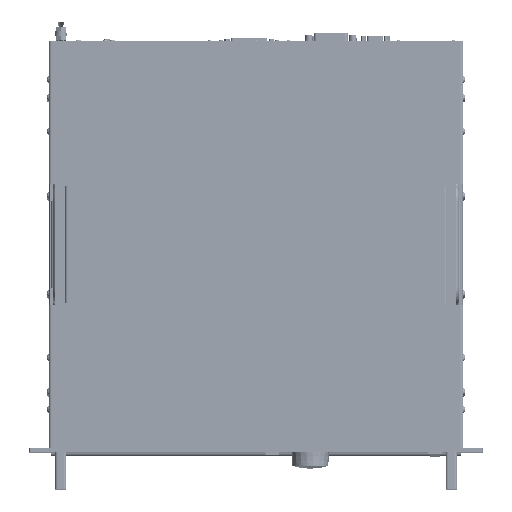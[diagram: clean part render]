
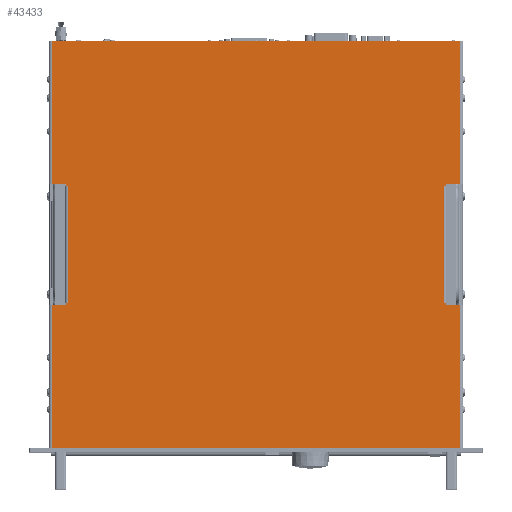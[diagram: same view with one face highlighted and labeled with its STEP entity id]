
A CAD part, top view. The second image highlights one B-rep face of the part: STEP entity #43433.
In plain terms, the highlighted planar face has unit normal (0, 0, 1).
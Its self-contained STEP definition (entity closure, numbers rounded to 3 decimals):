
#43433=ADVANCED_FACE('',(#91662),#91663,.F.);
#91662=FACE_OUTER_BOUND('',#171749,.T.);
#91663=PLANE('',#171750);
#171749=EDGE_LOOP('',(#300291,#300292,#300293,#300294,#300295,#300296,#300297,#300298,#300299,#300300,#300301,#300302,#300303,#300304,#300305,#300306,#300307,#300308,#300309,#300310));
#171750=AXIS2_PLACEMENT_3D('',#300311,#300312,#300313);
#300291=ORIENTED_EDGE('',*,*,#367679,.T.);
#300292=ORIENTED_EDGE('',*,*,#367699,.F.);
#300293=ORIENTED_EDGE('',*,*,#367700,.F.);
#300294=ORIENTED_EDGE('',*,*,#367343,.F.);
#300295=ORIENTED_EDGE('',*,*,#367665,.F.);
#300296=ORIENTED_EDGE('',*,*,#367328,.F.);
#300297=ORIENTED_EDGE('',*,*,#367654,.F.);
#300298=ORIENTED_EDGE('',*,*,#367701,.F.);
#300299=ORIENTED_EDGE('',*,*,#367697,.T.);
#300300=ORIENTED_EDGE('',*,*,#367692,.F.);
#300301=ORIENTED_EDGE('',*,*,#367689,.T.);
#300302=ORIENTED_EDGE('',*,*,#367702,.F.);
#300303=ORIENTED_EDGE('',*,*,#367630,.F.);
#300304=ORIENTED_EDGE('',*,*,#367318,.F.);
#300305=ORIENTED_EDGE('',*,*,#367619,.F.);
#300306=ORIENTED_EDGE('',*,*,#367338,.F.);
#300307=ORIENTED_EDGE('',*,*,#367703,.F.);
#300308=ORIENTED_EDGE('',*,*,#367704,.F.);
#300309=ORIENTED_EDGE('',*,*,#367676,.T.);
#300310=ORIENTED_EDGE('',*,*,#367684,.T.);
#300311=CARTESIAN_POINT('',(241.3,260.625,101.899));
#300312=DIRECTION('',(0.,0.,-1.0));
#300313=DIRECTION('',(1.0,0.,0.));
#367318=EDGE_CURVE('',#442397,#442399,#442400,.T.);
#367328=EDGE_CURVE('',#442415,#442417,#442418,.T.);
#367338=EDGE_CURVE('',#442433,#442435,#442436,.T.);
#367343=EDGE_CURVE('',#442442,#442444,#442445,.T.);
#367619=EDGE_CURVE('',#442435,#442397,#442875,.T.);
#367630=EDGE_CURVE('',#442399,#442890,#442891,.T.);
#367654=EDGE_CURVE('',#442923,#442415,#442925,.T.);
#367665=EDGE_CURVE('',#442417,#442442,#442940,.T.);
#367676=EDGE_CURVE('',#442951,#442954,#442956,.T.);
#367679=EDGE_CURVE('',#442961,#442958,#442962,.T.);
#367684=EDGE_CURVE('',#442954,#442961,#442967,.T.);
#367689=EDGE_CURVE('',#442973,#442971,#442974,.T.);
#367692=EDGE_CURVE('',#442973,#442977,#442978,.T.);
#367697=EDGE_CURVE('',#442983,#442977,#442985,.T.);
#367699=EDGE_CURVE('',#442987,#442958,#442988,.T.);
#367700=EDGE_CURVE('',#442444,#442987,#442989,.T.);
#367701=EDGE_CURVE('',#442983,#442923,#442990,.T.);
#367702=EDGE_CURVE('',#442890,#442971,#442991,.T.);
#367703=EDGE_CURVE('',#442992,#442433,#442993,.T.);
#367704=EDGE_CURVE('',#442951,#442992,#442994,.T.);
#442397=VERTEX_POINT('',#549670);
#442399=VERTEX_POINT('',#549672);
#442400=LINE('',#549673,#549674);
#442415=VERTEX_POINT('',#549692);
#442417=VERTEX_POINT('',#549694);
#442418=LINE('',#549695,#549696);
#442433=VERTEX_POINT('',#549714);
#442435=VERTEX_POINT('',#549716);
#442436=LINE('',#549717,#549718);
#442442=VERTEX_POINT('',#549725);
#442444=VERTEX_POINT('',#549727);
#442445=LINE('',#549728,#549729);
#442875=LINE('',#550280,#550281);
#442890=VERTEX_POINT('',#550301);
#442891=LINE('',#550302,#550303);
#442923=VERTEX_POINT('',#550349);
#442925=LINE('',#550352,#550353);
#442940=LINE('',#550373,#550374);
#442951=VERTEX_POINT('',#550389);
#442954=VERTEX_POINT('',#550393);
#442956=LINE('',#550395,#550396);
#442958=VERTEX_POINT('',#550398);
#442961=VERTEX_POINT('',#550402);
#442962=LINE('',#550403,#550404);
#442967=LINE('',#550409,#550410);
#442971=VERTEX_POINT('',#550415);
#442973=VERTEX_POINT('',#550418);
#442974=LINE('',#550419,#550420);
#442977=VERTEX_POINT('',#550423);
#442978=LINE('',#550424,#550425);
#442983=VERTEX_POINT('',#550430);
#442985=LINE('',#550433,#550434);
#442987=VERTEX_POINT('',#550436);
#442988=LINE('',#550437,#550438);
#442989=LINE('',#550439,#550440);
#442990=LINE('',#550441,#550442);
#442991=LINE('',#550443,#550444);
#442992=VERTEX_POINT('',#550445);
#442993=LINE('',#550446,#550447);
#442994=LINE('',#550448,#550449);
#549670=CARTESIAN_POINT('',(23.623,44.,101.899));
#549672=CARTESIAN_POINT('',(23.623,196.0,101.899));
#549673=CARTESIAN_POINT('',(23.623,190.313,101.899));
#549674=VECTOR('',#611081,1.0);
#549692=CARTESIAN_POINT('',(23.623,325.25,101.899));
#549694=CARTESIAN_POINT('',(23.623,477.25,101.899));
#549695=CARTESIAN_POINT('',(23.623,330.938,101.899));
#549696=VECTOR('',#611097,1.0);
#549714=CARTESIAN_POINT('',(458.977,196.0,101.899));
#549716=CARTESIAN_POINT('',(458.977,44.,101.899));
#549717=CARTESIAN_POINT('',(458.977,190.313,101.899));
#549718=VECTOR('',#611113,1.0);
#549725=CARTESIAN_POINT('',(458.977,477.25,101.899));
#549727=CARTESIAN_POINT('',(458.977,325.25,101.899));
#549728=CARTESIAN_POINT('',(458.977,330.938,101.899));
#549729=VECTOR('',#611121,1.0);
#550280=CARTESIAN_POINT('',(461.727,44.,101.899));
#550281=VECTOR('',#611507,1.0);
#550301=CARTESIAN_POINT('',(38.873,196.0,101.899));
#550302=CARTESIAN_POINT('',(20.873,196.0,101.899));
#550303=VECTOR('',#611525,1.0);
#550349=CARTESIAN_POINT('',(38.873,325.25,101.899));
#550352=CARTESIAN_POINT('',(38.873,325.25,101.899));
#550353=VECTOR('',#611553,1.0);
#550373=CARTESIAN_POINT('',(20.873,477.25,101.899));
#550374=VECTOR('',#611571,1.0);
#550389=CARTESIAN_POINT('',(443.727,198.0,101.899));
#550393=CARTESIAN_POINT('',(441.977,198.,101.899));
#550395=CARTESIAN_POINT('',(342.593,198.,101.899));
#550396=VECTOR('',#611583,1.0);
#550398=CARTESIAN_POINT('',(443.727,323.25,101.899));
#550402=CARTESIAN_POINT('',(441.977,323.25,101.899));
#550403=CARTESIAN_POINT('',(342.593,323.25,101.899));
#550404=VECTOR('',#611585,1.0);
#550409=CARTESIAN_POINT('',(441.977,260.625,101.899));
#550410=VECTOR('',#611595,1.0);
#550415=CARTESIAN_POINT('',(38.873,198.0,101.899));
#550418=CARTESIAN_POINT('',(40.623,198.,101.899));
#550419=CARTESIAN_POINT('',(140.007,198.,101.899));
#550420=VECTOR('',#611598,1.0);
#550423=CARTESIAN_POINT('',(40.623,323.25,101.899));
#550424=CARTESIAN_POINT('',(40.623,260.625,101.899));
#550425=VECTOR('',#611602,1.0);
#550430=CARTESIAN_POINT('',(38.873,323.25,101.899));
#550433=CARTESIAN_POINT('',(140.007,323.25,101.899));
#550434=VECTOR('',#611610,1.0);
#550436=CARTESIAN_POINT('',(443.727,325.25,101.899));
#550437=CARTESIAN_POINT('',(443.727,325.25,101.899));
#550438=VECTOR('',#611611,1.0);
#550439=CARTESIAN_POINT('',(461.727,325.25,101.899));
#550440=VECTOR('',#611612,1.0);
#550441=CARTESIAN_POINT('',(38.873,323.25,101.899));
#550442=VECTOR('',#611613,1.0);
#550443=CARTESIAN_POINT('',(38.873,196.0,101.899));
#550444=VECTOR('',#611614,1.0);
#550445=CARTESIAN_POINT('',(443.727,196.0,101.899));
#550446=CARTESIAN_POINT('',(443.727,196.0,101.899));
#550447=VECTOR('',#611615,1.0);
#550448=CARTESIAN_POINT('',(443.727,198.0,101.899));
#550449=VECTOR('',#611616,1.0);
#611081=DIRECTION('',(0.0,1.0,0.0));
#611097=DIRECTION('',(0.0,1.0,0.0));
#611113=DIRECTION('',(0.0,-1.0,0.0));
#611121=DIRECTION('',(0.0,-1.0,0.0));
#611507=DIRECTION('',(-1.0,0.0,0.0));
#611525=DIRECTION('',(1.0,0.0,0.0));
#611553=DIRECTION('',(-1.0,0.0,0.0));
#611571=DIRECTION('',(1.0,0.0,0.0));
#611583=DIRECTION('',(-1.0,0.0,0.0));
#611585=DIRECTION('',(1.0,0.0,0.0));
#611595=DIRECTION('',(0.0,1.0,0.0));
#611598=DIRECTION('',(-1.0,0.0,0.0));
#611602=DIRECTION('',(0.0,1.0,0.0));
#611610=DIRECTION('',(1.0,0.0,0.0));
#611611=DIRECTION('',(0.0,-1.0,0.0));
#611612=DIRECTION('',(-1.0,0.0,0.0));
#611613=DIRECTION('',(0.0,1.0,0.0));
#611614=DIRECTION('',(0.0,1.0,0.0));
#611615=DIRECTION('',(1.0,0.0,0.0));
#611616=DIRECTION('',(0.0,-1.0,0.0));
